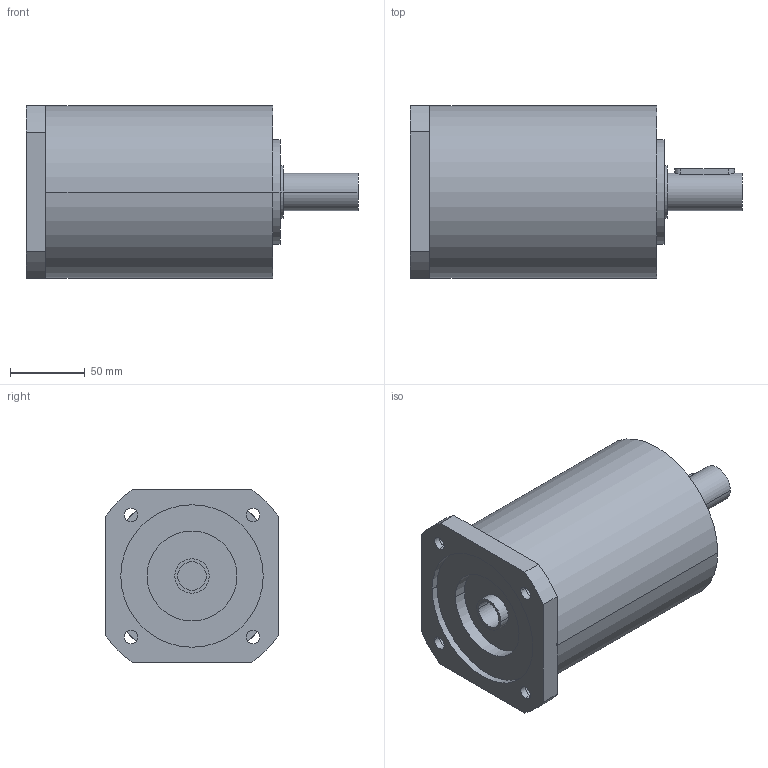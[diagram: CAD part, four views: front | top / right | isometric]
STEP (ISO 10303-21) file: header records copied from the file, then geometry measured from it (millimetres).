
FILE_DESCRIPTION(('CoCreate Modeling STEP Export'),'2;1');
FILE_NAME('GPR125_ig-9-12-16-20-28-35_25_B14_19_P06.stp','2014-08-26T14:10:39',(''),(''),'CoCreate Modeling STEP processor for AP214 (Solid Model)','CoCreate Modeling 16.00C 25-Feb-2009 (C) Parametric Technology GmbH','');
FILE_SCHEMA(('AUTOMOTIVE_DESIGN { 1 0 10303 214 1 1 1 1 }'));
Length unit declared in the file: millimetre
Products named in the file (2): GPR125_ig-9-12-16-20-28-35_25_B14_19_P06
Assembly tree (1 placements, depth 2):
  GPR125_ig-9-12-16-20-28-35_25_B14_19_P06
    GPR125_ig-9-12-16-20-28-35_25_B14_19_P06
Bounding box: 221.4 x 115 x 115 mm (x, y, z)
Volume: 1708262.7 mm3; surface area: 101781 mm2
Topology: 1 solids, 1 shells, 81 faces, 223 edges, 155 vertices
Faces by surface type: cylinder 48, plane 29, cone 4
Entity records: 2226 total; most frequent: ORIENTED_EDGE 442, CARTESIAN_POINT 408, DIRECTION 300, EDGE_CURVE 221, VERTEX_POINT 155, AXIS2_PLACEMENT_3D 115, EDGE_LOOP 102, FACE_OUTER_BOUND 81
